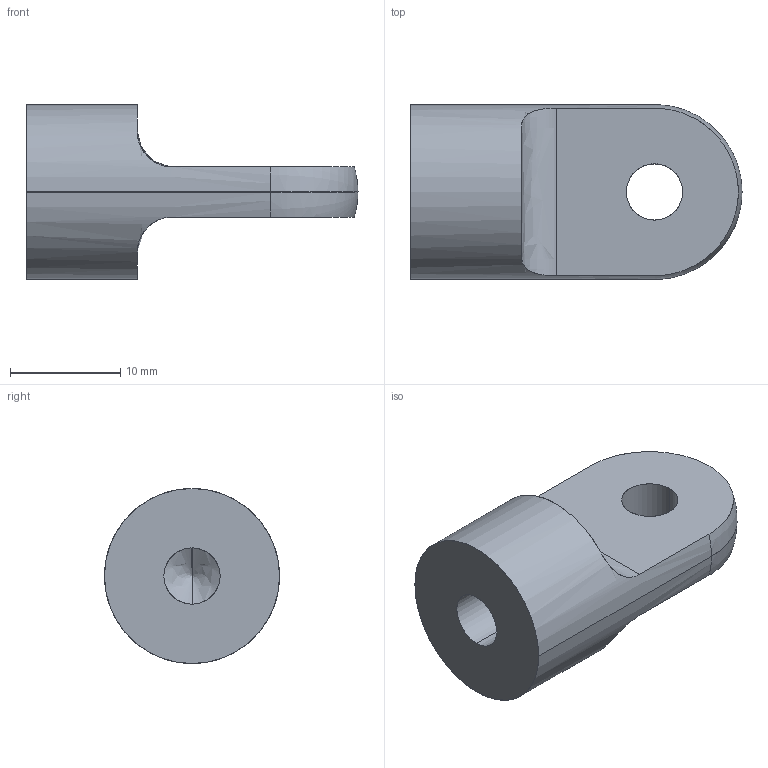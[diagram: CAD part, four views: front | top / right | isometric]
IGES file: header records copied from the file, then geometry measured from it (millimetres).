
Start section: SolidWorks IGES file using analytic representation for surfaces
Global section: file name: O:\_New Design Drive Folder List\_Design Vault\AAI\Modular Round Tube Connectors\Solidworks Models\Modular Connectors\0.500 In. Modular Connectors\Basic Models\0.500 In. End Thread Male Clevis.IGS; native system: SolidWorks 2015; preprocessor: SolidWorks 2015; author: mgriswold; date: 150908.155149; units: inch
Bounding box: 30.12 x 15.88 x 15.88 mm (x, y, z)
Surface area: 1758.6 mm2 (no closed solid volume)
Topology: 0 solids, 0 shells, 17 faces, 330 edges, 327 vertices
Faces by surface type: revolution 12, bspline 5
